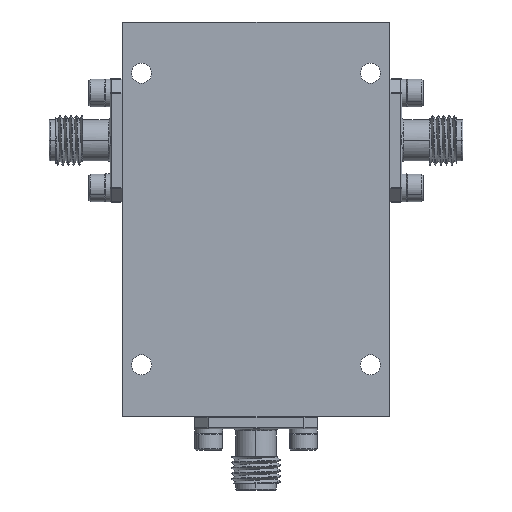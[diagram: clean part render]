
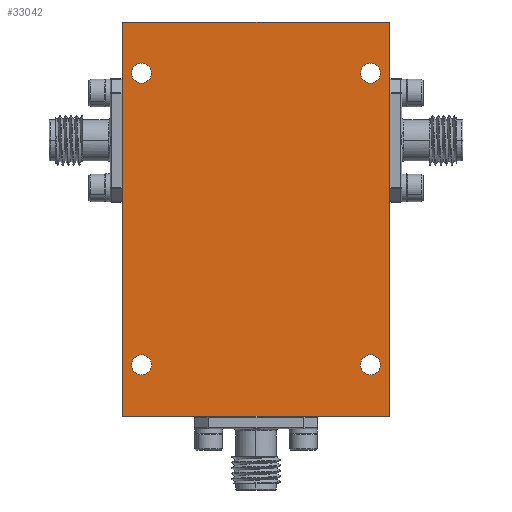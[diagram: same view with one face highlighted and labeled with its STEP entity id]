
A CAD part, front view. The second image highlights one B-rep face of the part: STEP entity #33042.
In plain terms, the highlighted planar face has unit normal (0, -1, 0).
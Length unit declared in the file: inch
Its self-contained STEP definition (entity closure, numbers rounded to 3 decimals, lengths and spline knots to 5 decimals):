
#383 = CARTESIAN_POINT ( 'NONE',  ( -1.13678, -0.31196, -1.24677 ) ) ;
#798 = AXIS2_PLACEMENT_3D ( 'NONE', #5747, #20725, #31637 ) ;
#1005 = FACE_OUTER_BOUND ( 'NONE', #36078, .T. ) ;
#2111 = DIRECTION ( 'NONE',  ( 0., 0., -1. ) ) ;
#2498 = VERTEX_POINT ( 'NONE', #15967 ) ;
#2680 = EDGE_LOOP ( 'NONE', ( #22275, #47330 ) ) ;
#3113 = VERTEX_POINT ( 'NONE', #35236 ) ;
#3292 = DIRECTION ( 'NONE',  ( 0., -1., 0. ) ) ;
#3802 = LINE ( 'NONE', #383, #35664 ) ;
#4266 = DIRECTION ( 'NONE',  ( 0., 0., -1. ) ) ;
#5666 = AXIS2_PLACEMENT_3D ( 'NONE', #41059, #41550, #48468 ) ;
#5747 = CARTESIAN_POINT ( 'NONE',  ( -1.04278, -0.31196, 0.49323 ) ) ;
#6536 = EDGE_CURVE ( 'NONE', #11993, #9299, #20379, .T. ) ;
#7272 = CARTESIAN_POINT ( 'NONE',  ( -1.04278, -0.31196, -1.03777 ) ) ;
#7274 = DIRECTION ( 'NONE',  ( 0., 0., -1. ) ) ;
#7870 = PLANE ( 'NONE',  #20166 ) ;
#7954 = EDGE_CURVE ( 'NONE', #2498, #3113, #42892, .T. ) ;
#8117 = FACE_BOUND ( 'NONE', #47893, .T. ) ;
#8137 = CIRCLE ( 'NONE', #45919, 0.051 ) ;
#8354 = EDGE_CURVE ( 'NONE', #3113, #13659, #22285, .T. ) ;
#8400 = LINE ( 'NONE', #12077, #17962 ) ;
#8602 = AXIS2_PLACEMENT_3D ( 'NONE', #17956, #36251, #47583 ) ;
#8624 = VERTEX_POINT ( 'NONE', #36585 ) ;
#9096 = CARTESIAN_POINT ( 'NONE',  ( -1.04278, -0.31196, 0.44223 ) ) ;
#9299 = VERTEX_POINT ( 'NONE', #21024 ) ;
#10397 = CARTESIAN_POINT ( 'NONE',  ( 0.11922, -0.31196, -0.98677 ) ) ;
#11291 = AXIS2_PLACEMENT_3D ( 'NONE', #19168, #22628, #34249 ) ;
#11794 = DIRECTION ( 'NONE',  ( 0., -1., 0. ) ) ;
#11844 = EDGE_CURVE ( 'NONE', #48052, #13228, #15676, .T. ) ;
#11993 = VERTEX_POINT ( 'NONE', #46819 ) ;
#12077 = CARTESIAN_POINT ( 'NONE',  ( 0.21322, -0.31196, -1.24677 ) ) ;
#12124 = AXIS2_PLACEMENT_3D ( 'NONE', #10397, #3292, #28887 ) ;
#13228 = VERTEX_POINT ( 'NONE', #24469 ) ;
#13659 = VERTEX_POINT ( 'NONE', #39937 ) ;
#14394 = CARTESIAN_POINT ( 'NONE',  ( -1.04278, -0.31196, -0.98677 ) ) ;
#15676 = CIRCLE ( 'NONE', #798, 0.051 ) ;
#15967 = CARTESIAN_POINT ( 'NONE',  ( -1.13678, -0.31196, -1.24677 ) ) ;
#16325 = VERTEX_POINT ( 'NONE', #41144 ) ;
#16765 = ORIENTED_EDGE ( 'NONE', *, *, #34852, .F. ) ;
#16977 = VECTOR ( 'NONE', #26247, 39.37008 ) ;
#17321 = ORIENTED_EDGE ( 'NONE', *, *, #24329, .F. ) ;
#17661 = CIRCLE ( 'NONE', #41306, 0.051 ) ;
#17956 = CARTESIAN_POINT ( 'NONE',  ( 0.11922, -0.31196, 0.49323 ) ) ;
#17962 = VECTOR ( 'NONE', #27127, 39.37008 ) ;
#18175 = ORIENTED_EDGE ( 'NONE', *, *, #30520, .F. ) ;
#19168 = CARTESIAN_POINT ( 'NONE',  ( -1.04278, -0.31196, 0.49323 ) ) ;
#20001 = EDGE_LOOP ( 'NONE', ( #23648, #32643 ) ) ;
#20166 = AXIS2_PLACEMENT_3D ( 'NONE', #23624, #11794, #22880 ) ;
#20379 = CIRCLE ( 'NONE', #8602, 0.051 ) ;
#20725 = DIRECTION ( 'NONE',  ( 0., -1., 0. ) ) ;
#21024 = CARTESIAN_POINT ( 'NONE',  ( 0.11922, -0.31196, 0.54423 ) ) ;
#21788 = DIRECTION ( 'NONE',  ( 0., -1., 0. ) ) ;
#21997 = DIRECTION ( 'NONE',  ( -1., 0., 0. ) ) ;
#22275 = ORIENTED_EDGE ( 'NONE', *, *, #27594, .F. ) ;
#22285 = LINE ( 'NONE', #37336, #16977 ) ;
#22463 = VERTEX_POINT ( 'NONE', #24738 ) ;
#22628 = DIRECTION ( 'NONE',  ( 0., -1., 0. ) ) ;
#22880 = DIRECTION ( 'NONE',  ( 0., 0., -1. ) ) ;
#23133 = FACE_BOUND ( 'NONE', #31645, .T. ) ;
#23624 = CARTESIAN_POINT ( 'NONE',  ( -1.13678, -0.31196, 0.75323 ) ) ;
#23648 = ORIENTED_EDGE ( 'NONE', *, *, #29032, .F. ) ;
#24329 = EDGE_CURVE ( 'NONE', #9299, #11993, #26634, .T. ) ;
#24469 = CARTESIAN_POINT ( 'NONE',  ( -1.04278, -0.31196, 0.54423 ) ) ;
#24738 = CARTESIAN_POINT ( 'NONE',  ( 0.11922, -0.31196, -1.03777 ) ) ;
#24828 = VECTOR ( 'NONE', #25347, 39.37008 ) ;
#25347 = DIRECTION ( 'NONE',  ( 0., 0., 1. ) ) ;
#25471 = DIRECTION ( 'NONE',  ( 0., -1., 0. ) ) ;
#25974 = VERTEX_POINT ( 'NONE', #7272 ) ;
#26247 = DIRECTION ( 'NONE',  ( 1., 0., 0. ) ) ;
#26634 = CIRCLE ( 'NONE', #31395, 0.051 ) ;
#27127 = DIRECTION ( 'NONE',  ( 0., 0., -1. ) ) ;
#27594 = EDGE_CURVE ( 'NONE', #33126, #25974, #28424, .T. ) ;
#28424 = CIRCLE ( 'NONE', #5666, 0.051 ) ;
#28887 = DIRECTION ( 'NONE',  ( 0., 0., -1. ) ) ;
#29032 = EDGE_CURVE ( 'NONE', #13228, #48052, #46736, .T. ) ;
#29668 = EDGE_CURVE ( 'NONE', #16325, #22463, #8137, .T. ) ;
#30520 = EDGE_CURVE ( 'NONE', #22463, #16325, #38131, .T. ) ;
#31060 = FACE_BOUND ( 'NONE', #2680, .T. ) ;
#31395 = AXIS2_PLACEMENT_3D ( 'NONE', #31941, #32660, #2111 ) ;
#31637 = DIRECTION ( 'NONE',  ( 0., 0., -1. ) ) ;
#31645 = EDGE_LOOP ( 'NONE', ( #43363, #18175 ) ) ;
#31941 = CARTESIAN_POINT ( 'NONE',  ( 0.11922, -0.31196, 0.49323 ) ) ;
#32643 = ORIENTED_EDGE ( 'NONE', *, *, #11844, .F. ) ;
#32660 = DIRECTION ( 'NONE',  ( 0., -1., 0. ) ) ;
#33042 = ADVANCED_FACE ( 'NONE', ( #1005, #34012, #8117, #23133, #31060 ), #7870, .T. ) ;
#33126 = VERTEX_POINT ( 'NONE', #43082 ) ;
#34012 = FACE_BOUND ( 'NONE', #20001, .T. ) ;
#34249 = DIRECTION ( 'NONE',  ( 0., 0., -1. ) ) ;
#34719 = ORIENTED_EDGE ( 'NONE', *, *, #48601, .F. ) ;
#34852 = EDGE_CURVE ( 'NONE', #13659, #8624, #8400, .T. ) ;
#35236 = CARTESIAN_POINT ( 'NONE',  ( -1.13678, -0.31196, 0.75323 ) ) ;
#35664 = VECTOR ( 'NONE', #21997, 39.37008 ) ;
#35754 = CARTESIAN_POINT ( 'NONE',  ( -1.13678, -0.31196, 0.75323 ) ) ;
#36078 = EDGE_LOOP ( 'NONE', ( #44135, #41416, #34719, #16765 ) ) ;
#36251 = DIRECTION ( 'NONE',  ( 0., -1., 0. ) ) ;
#36585 = CARTESIAN_POINT ( 'NONE',  ( 0.21322, -0.31196, -1.24677 ) ) ;
#37336 = CARTESIAN_POINT ( 'NONE',  ( 0.21322, -0.31196, 0.75323 ) ) ;
#38131 = CIRCLE ( 'NONE', #12124, 0.051 ) ;
#39937 = CARTESIAN_POINT ( 'NONE',  ( 0.21322, -0.31196, 0.75323 ) ) ;
#41059 = CARTESIAN_POINT ( 'NONE',  ( -1.04278, -0.31196, -0.98677 ) ) ;
#41144 = CARTESIAN_POINT ( 'NONE',  ( 0.11922, -0.31196, -0.93577 ) ) ;
#41306 = AXIS2_PLACEMENT_3D ( 'NONE', #14394, #21788, #7274 ) ;
#41416 = ORIENTED_EDGE ( 'NONE', *, *, #7954, .F. ) ;
#41550 = DIRECTION ( 'NONE',  ( 0., -1., 0. ) ) ;
#42892 = LINE ( 'NONE', #35754, #24828 ) ;
#43082 = CARTESIAN_POINT ( 'NONE',  ( -1.04278, -0.31196, -0.93577 ) ) ;
#43363 = ORIENTED_EDGE ( 'NONE', *, *, #29668, .F. ) ;
#43685 = CARTESIAN_POINT ( 'NONE',  ( 0.11922, -0.31196, -0.98677 ) ) ;
#44135 = ORIENTED_EDGE ( 'NONE', *, *, #8354, .F. ) ;
#45919 = AXIS2_PLACEMENT_3D ( 'NONE', #43685, #25471, #4266 ) ;
#45980 = ORIENTED_EDGE ( 'NONE', *, *, #6536, .F. ) ;
#46520 = EDGE_CURVE ( 'NONE', #25974, #33126, #17661, .T. ) ;
#46736 = CIRCLE ( 'NONE', #11291, 0.051 ) ;
#46819 = CARTESIAN_POINT ( 'NONE',  ( 0.11922, -0.31196, 0.44223 ) ) ;
#47330 = ORIENTED_EDGE ( 'NONE', *, *, #46520, .F. ) ;
#47583 = DIRECTION ( 'NONE',  ( 0., 0., -1. ) ) ;
#47893 = EDGE_LOOP ( 'NONE', ( #17321, #45980 ) ) ;
#48052 = VERTEX_POINT ( 'NONE', #9096 ) ;
#48468 = DIRECTION ( 'NONE',  ( 0., 0., -1. ) ) ;
#48601 = EDGE_CURVE ( 'NONE', #8624, #2498, #3802, .T. ) ;
